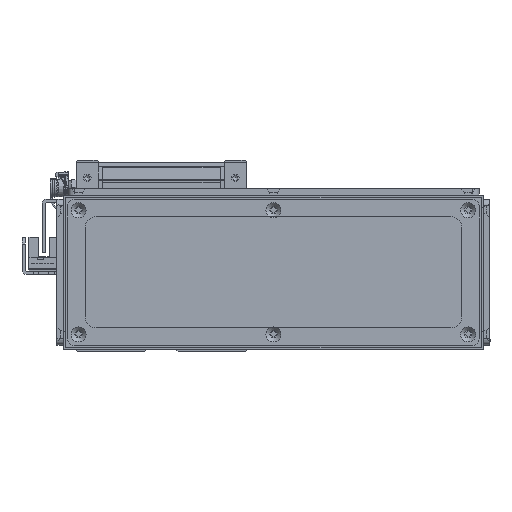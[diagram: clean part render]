
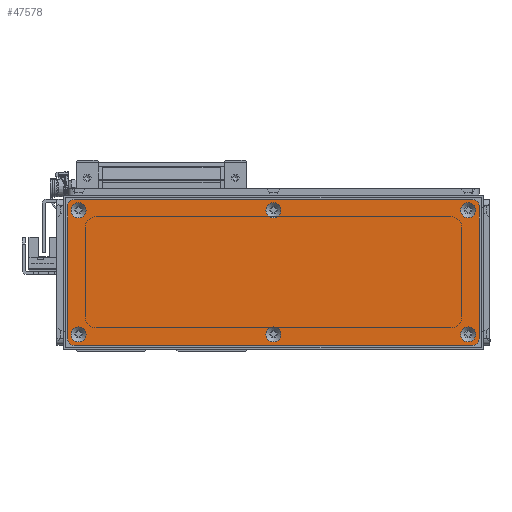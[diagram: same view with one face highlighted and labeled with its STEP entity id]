
A CAD part, front view. The second image highlights one B-rep face of the part: STEP entity #47578.
In plain terms, the highlighted planar face has unit normal (0, -1, 0) as drawn and (0, 0, 1) by its records, which use the part's own axes.
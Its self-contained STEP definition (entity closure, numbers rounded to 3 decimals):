
#2099=FACE_BOUND('',#8478,.T.);
#2100=FACE_BOUND('',#8479,.T.);
#2101=FACE_BOUND('',#8480,.T.);
#2102=FACE_BOUND('',#8481,.T.);
#2103=FACE_BOUND('',#8482,.T.);
#2104=FACE_BOUND('',#8483,.T.);
#2775=PLANE('',#51599);
#5633=FACE_OUTER_BOUND('',#8477,.T.);
#8477=EDGE_LOOP('',(#38858,#38859,#38860,#38861,#38862,#38863,#38864,#38865));
#8478=EDGE_LOOP('',(#38866));
#8479=EDGE_LOOP('',(#38867));
#8480=EDGE_LOOP('',(#38868));
#8481=EDGE_LOOP('',(#38869));
#8482=EDGE_LOOP('',(#38870));
#8483=EDGE_LOOP('',(#38871));
#11764=LINE('',#73035,#16973);
#11767=LINE('',#73043,#16976);
#11770=LINE('',#73051,#16979);
#11773=LINE('',#73058,#16982);
#16973=VECTOR('',#59500,10.);
#16976=VECTOR('',#59509,10.);
#16979=VECTOR('',#59518,10.);
#16982=VECTOR('',#59527,10.);
#21330=CIRCLE('',#51553,3.45);
#21333=CIRCLE('',#51558,3.45);
#21336=CIRCLE('',#51563,3.45);
#21339=CIRCLE('',#51568,3.45);
#21342=CIRCLE('',#51573,3.45);
#21345=CIRCLE('',#51578,3.45);
#21352=CIRCLE('',#51588,3.);
#21353=CIRCLE('',#51591,3.);
#21354=CIRCLE('',#51594,3.);
#21355=CIRCLE('',#51597,3.);
#23605=VERTEX_POINT('',#72951);
#23608=VERTEX_POINT('',#72961);
#23611=VERTEX_POINT('',#72971);
#23614=VERTEX_POINT('',#72981);
#23617=VERTEX_POINT('',#72991);
#23620=VERTEX_POINT('',#73001);
#23631=VERTEX_POINT('',#73028);
#23632=VERTEX_POINT('',#73030);
#23633=VERTEX_POINT('',#73034);
#23634=VERTEX_POINT('',#73038);
#23635=VERTEX_POINT('',#73042);
#23636=VERTEX_POINT('',#73046);
#23637=VERTEX_POINT('',#73050);
#23638=VERTEX_POINT('',#73054);
#29072=EDGE_CURVE('',#23605,#23605,#21330,.T.);
#29077=EDGE_CURVE('',#23608,#23608,#21333,.T.);
#29082=EDGE_CURVE('',#23611,#23611,#21336,.T.);
#29087=EDGE_CURVE('',#23614,#23614,#21339,.T.);
#29092=EDGE_CURVE('',#23617,#23617,#21342,.T.);
#29097=EDGE_CURVE('',#23620,#23620,#21345,.T.);
#29111=EDGE_CURVE('',#23632,#23631,#21352,.T.);
#29113=EDGE_CURVE('',#23633,#23632,#11764,.T.);
#29115=EDGE_CURVE('',#23634,#23633,#21353,.T.);
#29117=EDGE_CURVE('',#23635,#23634,#11767,.T.);
#29119=EDGE_CURVE('',#23636,#23635,#21354,.T.);
#29121=EDGE_CURVE('',#23637,#23636,#11770,.T.);
#29123=EDGE_CURVE('',#23638,#23637,#21355,.T.);
#29125=EDGE_CURVE('',#23631,#23638,#11773,.T.);
#38858=ORIENTED_EDGE('',*,*,#29125,.T.);
#38859=ORIENTED_EDGE('',*,*,#29123,.T.);
#38860=ORIENTED_EDGE('',*,*,#29121,.T.);
#38861=ORIENTED_EDGE('',*,*,#29119,.T.);
#38862=ORIENTED_EDGE('',*,*,#29117,.T.);
#38863=ORIENTED_EDGE('',*,*,#29115,.T.);
#38864=ORIENTED_EDGE('',*,*,#29113,.T.);
#38865=ORIENTED_EDGE('',*,*,#29111,.T.);
#38866=ORIENTED_EDGE('',*,*,#29072,.T.);
#38867=ORIENTED_EDGE('',*,*,#29077,.T.);
#38868=ORIENTED_EDGE('',*,*,#29082,.T.);
#38869=ORIENTED_EDGE('',*,*,#29087,.T.);
#38870=ORIENTED_EDGE('',*,*,#29092,.T.);
#38871=ORIENTED_EDGE('',*,*,#29097,.T.);
#47578=ADVANCED_FACE('',(#5633,#2099,#2100,#2101,#2102,#2103,#2104),#2775,
 .T.);
#51553=AXIS2_PLACEMENT_3D('',#72952,#59408,#59409);
#51558=AXIS2_PLACEMENT_3D('',#72962,#59420,#59421);
#51563=AXIS2_PLACEMENT_3D('',#72972,#59432,#59433);
#51568=AXIS2_PLACEMENT_3D('',#72982,#59444,#59445);
#51573=AXIS2_PLACEMENT_3D('',#72992,#59456,#59457);
#51578=AXIS2_PLACEMENT_3D('',#73002,#59468,#59469);
#51588=AXIS2_PLACEMENT_3D('',#73031,#59495,#59496);
#51591=AXIS2_PLACEMENT_3D('',#73039,#59504,#59505);
#51594=AXIS2_PLACEMENT_3D('',#73047,#59513,#59514);
#51597=AXIS2_PLACEMENT_3D('',#73055,#59522,#59523);
#51599=AXIS2_PLACEMENT_3D('',#73059,#59528,#59529);
#59408=DIRECTION('center_axis',(0.,0.,-1.));
#59409=DIRECTION('ref_axis',(1.,0.,0.));
#59420=DIRECTION('center_axis',(0.,0.,-1.));
#59421=DIRECTION('ref_axis',(1.,0.,0.));
#59432=DIRECTION('center_axis',(0.,0.,-1.));
#59433=DIRECTION('ref_axis',(1.,0.,0.));
#59444=DIRECTION('center_axis',(0.,0.,-1.));
#59445=DIRECTION('ref_axis',(1.,0.,0.));
#59456=DIRECTION('center_axis',(0.,0.,-1.));
#59457=DIRECTION('ref_axis',(1.,0.,0.));
#59468=DIRECTION('center_axis',(0.,0.,-1.));
#59469=DIRECTION('ref_axis',(1.,0.,0.));
#59495=DIRECTION('center_axis',(0.,0.,1.));
#59496=DIRECTION('ref_axis',(0.,1.,0.));
#59500=DIRECTION('',(-1.,0.,0.));
#59504=DIRECTION('center_axis',(0.,0.,1.));
#59505=DIRECTION('ref_axis',(1.,0.,0.));
#59509=DIRECTION('',(0.,1.,0.));
#59513=DIRECTION('center_axis',(0.,0.,1.));
#59514=DIRECTION('ref_axis',(0.,-1.,0.));
#59518=DIRECTION('',(1.,0.,0.));
#59522=DIRECTION('center_axis',(0.,0.,1.));
#59523=DIRECTION('ref_axis',(-1.,0.,0.));
#59527=DIRECTION('',(0.,-1.,0.));
#59528=DIRECTION('center_axis',(0.,0.,1.));
#59529=DIRECTION('ref_axis',(1.,0.,0.));
#72951=CARTESIAN_POINT('',(-3.45,28.5,1.5));
#72952=CARTESIAN_POINT('Origin',(0.,28.5,1.5));
#72961=CARTESIAN_POINT('',(86.05,-28.5,1.5));
#72962=CARTESIAN_POINT('Origin',(89.5,-28.5,1.5));
#72971=CARTESIAN_POINT('',(-92.95,28.5,1.5));
#72972=CARTESIAN_POINT('Origin',(-89.5,28.5,1.5));
#72981=CARTESIAN_POINT('',(86.05,28.5,1.5));
#72982=CARTESIAN_POINT('Origin',(89.5,28.5,1.5));
#72991=CARTESIAN_POINT('',(-92.95,-28.5,1.5));
#72992=CARTESIAN_POINT('Origin',(-89.5,-28.5,1.5));
#73001=CARTESIAN_POINT('',(-3.45,-28.5,1.5));
#73002=CARTESIAN_POINT('Origin',(0.,-28.5,1.5));
#73028=CARTESIAN_POINT('',(-94.5,30.5,1.5));
#73030=CARTESIAN_POINT('',(-91.5,33.5,1.5));
#73031=CARTESIAN_POINT('Origin',(-91.5,30.5,1.5));
#73034=CARTESIAN_POINT('',(91.5,33.5,1.5));
#73035=CARTESIAN_POINT('',(91.5,33.5,1.5));
#73038=CARTESIAN_POINT('',(94.5,30.5,1.5));
#73039=CARTESIAN_POINT('Origin',(91.5,30.5,1.5));
#73042=CARTESIAN_POINT('',(94.5,-30.5,1.5));
#73043=CARTESIAN_POINT('',(94.5,-30.5,1.5));
#73046=CARTESIAN_POINT('',(91.5,-33.5,1.5));
#73047=CARTESIAN_POINT('Origin',(91.5,-30.5,1.5));
#73050=CARTESIAN_POINT('',(-91.5,-33.5,1.5));
#73051=CARTESIAN_POINT('',(-91.5,-33.5,1.5));
#73054=CARTESIAN_POINT('',(-94.5,-30.5,1.5));
#73055=CARTESIAN_POINT('Origin',(-91.5,-30.5,1.5));
#73058=CARTESIAN_POINT('',(-94.5,30.5,1.5));
#73059=CARTESIAN_POINT('Origin',(0.,0.,
1.5));
